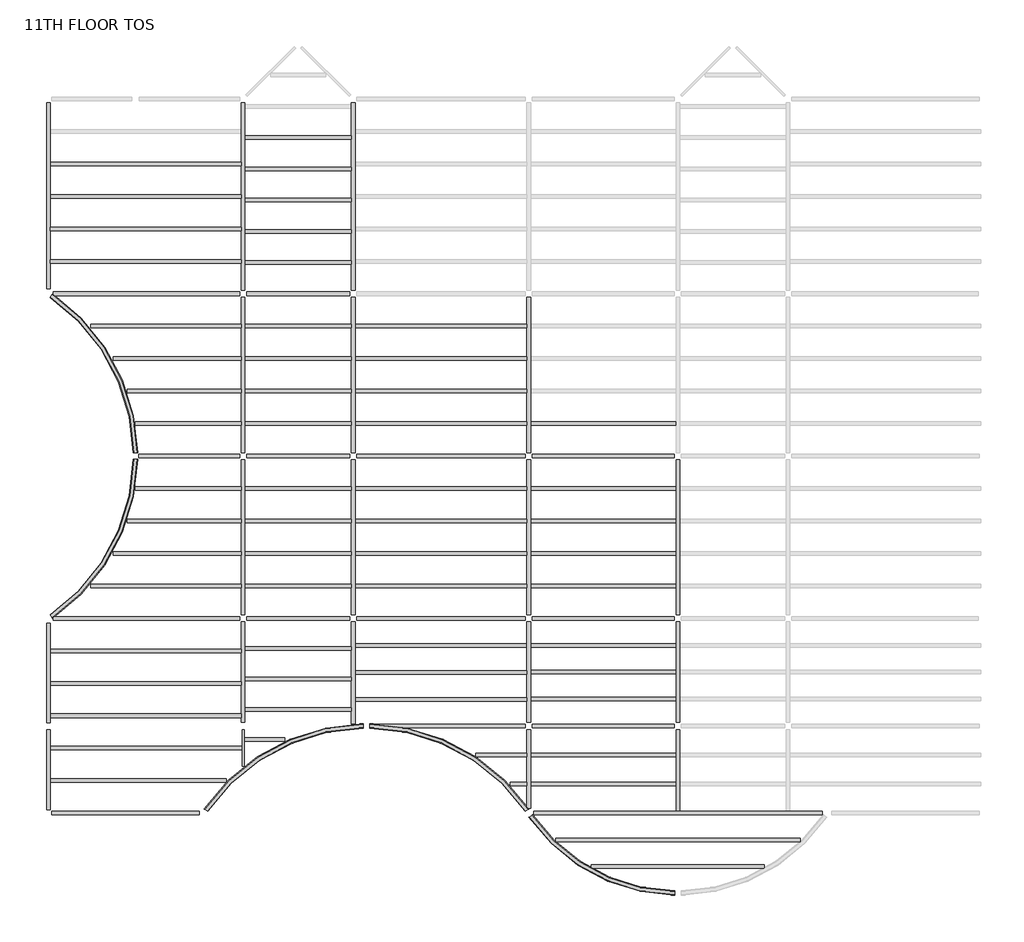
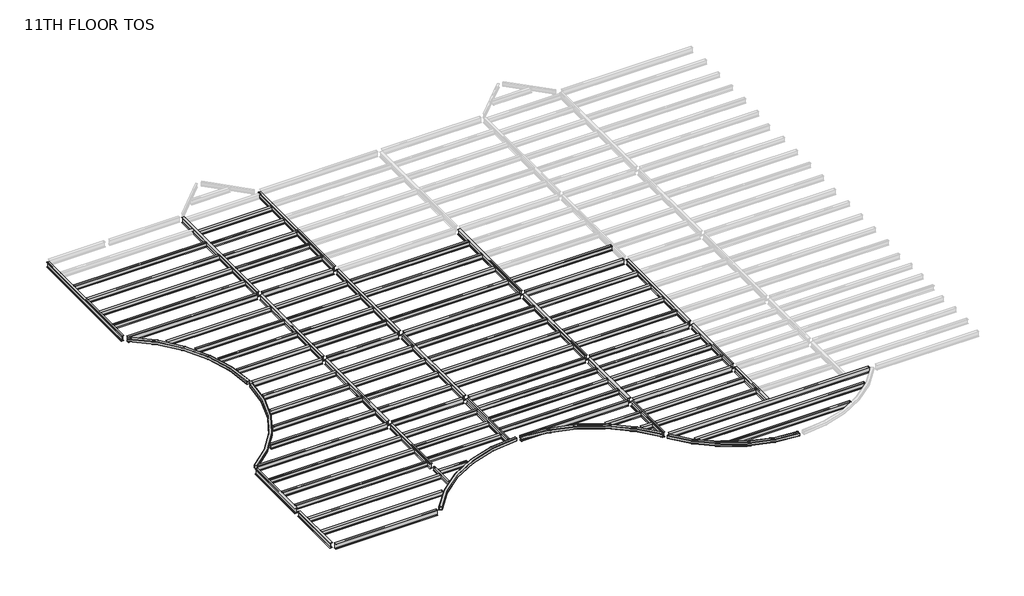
# One storey, part 1 of 2: 97 beams.
"""IFC4 building model written with IfcOpenShell, lengths in millimetres."""

from ifc_helpers import new_model, si_unit, origin, place, context, project, spatial, transform, mapped, element, save
from components import m_hss_square_hss203_2x203_2x9_5_914ff4eb, m_hss_square_hss203_2x203_2x9_5_0e3d8e6e, m_hss_square_hss203_2x203_2x9_5_16dc1c03, m_hss_square_hss203_2x203_2x9_5_18346204, m_hss_square_hss203_2x203_2x9_5_d5f1e8c4, ub_universal_beams_ub254x102x28_4e7f3726, ub_universal_beams_ub305x165x40_c4d0385b, ub_universal_beams_ub305x165x40_d3abc31d, ub_universal_beams_ub305x165x40_0c73730f, ub_universal_beams_ub305x165x40_2a963f0c, ub_universal_beams_ub305x165x40_0a5f2f96, ub_universal_beams_ub305x165x40_d1f7c369, ub_universal_beams_ub305x165x40_83d7b7d5, ub_universal_beams_ub305x165x40_729a4ea5, ub_universal_beams_ub305x165x40_71dfa851, ub_universal_beams_ub305x165x40_619b5398, ub_universal_beams_ub305x165x40_c3492db1, ub_universal_beams_ub305x165x40_8f1c350d, ub_universal_beams_ub305x165x40_3afb5f90, ub_universal_beams_ub305x165x40_767d1929, ub_universal_beams_ub305x165x40_5941ca45, ub_universal_beams_ub356x171x51_ef72dcdd, ub_universal_beams_ub356x171x51_7f80702c, ub_universal_beams_ub356x171x51_dfc36663, ub_universal_beams_ub356x171x51_405a853e, ub_universal_beams_ub356x171x51_e47b7055, ub_universal_beams_ub356x171x51_e97f8d2e, ub_universal_beams_ub356x171x51_11d6b780, ub_universal_beams_ub356x171x51_76b2d20b, ub_universal_beams_ub356x171x51_145ecd4b, ub_universal_beams_ub356x171x51_c7dff8d2, ub_universal_beams_ub356x171x51_834c6e34, ub_universal_beams_ub356x171x51_a38b99de, ub_universal_beams_ub356x171x51_d8f4cdde, ub_universal_beams_ub356x171x51_8094f821, ub_universal_beams_ub356x171x51_c03c70fb, ub_universal_beams_ub356x171x51_e661f2e4, ub_universal_beams_ub356x171x51_3ee91673, ub_universal_beams_ub356x171x51_a871b283, ub_universal_beams_ub356x171x51_741bae58

model = new_model("IFC4")

# Units and contexts
model_context = context("Model", 3, world=origin())
ifc_project = project(units=[si_unit("LENGTHUNIT", "METRE", prefix="MILLI")], contexts=[model_context])

# Site, building, storey
site = spatial("IfcSite", under=ifc_project)
building = spatial("IfcBuilding", under=site)
storey = spatial("IfcBuildingStorey", under=building, Name="11TH FLOOR TOS", Elevation=50139.6)

# Beams
placement = place(None, origin())
m_hss_square_hss203_2x203_2x9_5_shape = m_hss_square_hss203_2x203_2x9_5_914ff4eb(model_context)
element("IfcBeam", 1, ObjectType="M_HSS Square : HSS203.2X203.2X9.5", at=placement, inside=storey, context=model_context, shape_type="MappedRepresentation", body=[
    mapped(m_hss_square_hss203_2x203_2x9_5_shape, transform((22710.575, 155.575, 50038.1), x_axis=(-0.552849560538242, 0.8332810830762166, 0.0), y_axis=(-0.8332810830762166, -0.552849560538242, 0.0), z_axis=(0.0, 0.0, 1.0))),
])
m_hss_square_hss203_2x203_2x9_5_2_shape = m_hss_square_hss203_2x203_2x9_5_0e3d8e6e(model_context)
element("IfcBeam", 2, ObjectType="M_HSS Square : HSS203.2X203.2X9.5", at=placement, inside=storey, context=model_context, shape_type="MappedRepresentation", body=[
    mapped(m_hss_square_hss203_2x203_2x9_5_2_shape, transform((155.575, 9299.575, 50038.1), x_axis=(0.8332810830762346, 0.5528495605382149, 0.0), y_axis=(-0.5528495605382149, 0.8332810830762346, 0.0), z_axis=(0.0, 0.0, 1.0))),
])
m_hss_square_hss203_2x203_2x9_5_3_shape = m_hss_square_hss203_2x203_2x9_5_16dc1c03(model_context)
element("IfcBeam", 3, ObjectType="M_HSS Square : HSS203.2X203.2X9.5", at=placement, inside=storey, context=model_context, shape_type="MappedRepresentation", body=[
    mapped(m_hss_square_hss203_2x203_2x9_5_3_shape, transform((155.575, 24539.575, 50038.1), x_axis=(0.8332810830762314, -0.5528495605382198, 0.0), y_axis=(0.5528495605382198, 0.8332810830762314, 0.0), z_axis=(0.0, 0.0, 1.0))),
])
m_hss_square_hss203_2x203_2x9_5_4_shape = m_hss_square_hss203_2x203_2x9_5_18346204(model_context)
element("IfcBeam", 4, ObjectType="M_HSS Square : HSS203.2X203.2X9.5", at=placement, inside=storey, context=model_context, shape_type="MappedRepresentation", body=[
    mapped(m_hss_square_hss203_2x203_2x9_5_4_shape, transform((29734.7266693, -3601.398624, 50038.1), x_axis=(-0.9999968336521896, -0.0025164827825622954, 0.0), y_axis=(0.0025164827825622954, -0.9999968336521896, 0.0), z_axis=(0.0, 0.0, 1.0))),
])
m_hss_square_hss203_2x203_2x9_5_5_shape = m_hss_square_hss203_2x203_2x9_5_d5f1e8c4(model_context)
element("IfcBeam", 5, ObjectType="M_HSS Square : HSS203.2X203.2X9.5", at=placement, inside=storey, context=model_context, shape_type="MappedRepresentation", body=[
    mapped(m_hss_square_hss203_2x203_2x9_5_5_shape, transform((15096.4572854, 4244.5731081, 50038.1), x_axis=(-0.9999997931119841, 0.0006432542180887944, 0.0), y_axis=(-0.0006432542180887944, -0.9999997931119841, 0.0), z_axis=(0.0, 0.0, 1.0))),
])
ub_universal_beams_ub254x102x28_shape = ub_universal_beams_ub254x102x28_4e7f3726(model_context)
element("IfcBeam", 6, ObjectType="UB-Universal Beams : UB254x102x28", at=placement, inside=storey, context=model_context, shape_type="MappedRepresentation", body=[
    mapped(ub_universal_beams_ub254x102x28_shape, transform((9299.575, 3210.915913, 50009.4), x_axis=(0.0, -1.0, 0.0), y_axis=(1.0, 0.0, 0.0), z_axis=(0.0, 0.0, 1.0))),
])
ub_universal_beams_ub305x165x40_shape = ub_universal_beams_ub305x165x40_c4d0385b(model_context)
element("IfcBeam", 7, ObjectType="UB-Universal Beams : UB305x165x40", at=placement, inside=storey, context=model_context, shape_type="MappedRepresentation", body=[
    mapped(ub_universal_beams_ub305x165x40_shape, transform((4727.575, 30635.575, 49987.9), x_axis=(1.0, 0.0, 0.0), y_axis=(0.0, 1.0, 0.0), z_axis=(0.0, 0.0, 1.0))),
])
element("IfcBeam", 8, ObjectType="UB-Universal Beams : UB305x165x40", at=placement, inside=storey, context=model_context, shape_type="MappedRepresentation", body=[
    mapped(ub_universal_beams_ub305x165x40_shape, transform((4727.575, 29111.575, 49987.9), x_axis=(1.0, 0.0, 0.0), y_axis=(0.0, 1.0, 0.0), z_axis=(0.0, 0.0, 1.0))),
])
element("IfcBeam", 9, ObjectType="UB-Universal Beams : UB305x165x40", at=placement, inside=storey, context=model_context, shape_type="MappedRepresentation", body=[
    mapped(ub_universal_beams_ub305x165x40_shape, transform((4727.575, 27587.575, 49987.9), x_axis=(1.0, 0.0, 0.0), y_axis=(0.0, 1.0, 0.0), z_axis=(0.0, 0.0, 1.0))),
])
element("IfcBeam", 10, ObjectType="UB-Universal Beams : UB305x165x40", at=placement, inside=storey, context=model_context, shape_type="MappedRepresentation", body=[
    mapped(ub_universal_beams_ub305x165x40_shape, transform((4727.575, 26063.575, 49987.9), x_axis=(1.0, 0.0, 0.0), y_axis=(0.0, 1.0, 0.0), z_axis=(0.0, 0.0, 1.0))),
])
element("IfcBeam", 11, ObjectType="UB-Universal Beams : UB305x165x40", at=placement, inside=storey, context=model_context, shape_type="MappedRepresentation", body=[
    mapped(ub_universal_beams_ub305x165x40_shape, transform((4727.575, 4727.575, 49987.9), x_axis=(-1.0, 0.0, 0.0), y_axis=(0.0, -1.0, 0.0), z_axis=(0.0, 0.0, 1.0))),
])
element("IfcBeam", 12, ObjectType="UB-Universal Beams : UB305x165x40", at=placement, inside=storey, context=model_context, shape_type="MappedRepresentation", body=[
    mapped(ub_universal_beams_ub305x165x40_shape, transform((4727.575, 6251.575, 49987.9), x_axis=(-1.0, 0.0, 0.0), y_axis=(0.0, -1.0, 0.0), z_axis=(0.0, 0.0, 1.0))),
])
element("IfcBeam", 13, ObjectType="UB-Universal Beams : UB305x165x40", at=placement, inside=storey, context=model_context, shape_type="MappedRepresentation", body=[
    mapped(ub_universal_beams_ub305x165x40_shape, transform((4727.575, 7775.575, 49987.9), x_axis=(-1.0, 0.0, 0.0), y_axis=(0.0, -1.0, 0.0), z_axis=(0.0, 0.0, 1.0))),
])
ub_universal_beams_ub305x165x40_2_shape = ub_universal_beams_ub305x165x40_d3abc31d(model_context)
element("IfcBeam", 14, ObjectType="UB-Universal Beams : UB305x165x40", at=placement, inside=storey, context=model_context, shape_type="MappedRepresentation", body=[
    mapped(ub_universal_beams_ub305x165x40_2_shape, transform((11885.575, 31870.825, 49987.9), x_axis=(1.0, 0.0, 0.0), y_axis=(0.0, 1.0, 0.0), z_axis=(0.0, 0.0, 1.0))),
])
element("IfcBeam", 15, ObjectType="UB-Universal Beams : UB305x165x40", at=placement, inside=storey, context=model_context, shape_type="MappedRepresentation", body=[
    mapped(ub_universal_beams_ub305x165x40_2_shape, transform((11885.575, 30404.575, 49987.9), x_axis=(1.0, 0.0, 0.0), y_axis=(0.0, 1.0, 0.0), z_axis=(0.0, 0.0, 1.0))),
])
element("IfcBeam", 16, ObjectType="UB-Universal Beams : UB305x165x40", at=placement, inside=storey, context=model_context, shape_type="MappedRepresentation", body=[
    mapped(ub_universal_beams_ub305x165x40_2_shape, transform((11885.575, 28938.325, 49987.9), x_axis=(1.0, 0.0, 0.0), y_axis=(0.0, 1.0, 0.0), z_axis=(0.0, 0.0, 1.0))),
])
element("IfcBeam", 17, ObjectType="UB-Universal Beams : UB305x165x40", at=placement, inside=storey, context=model_context, shape_type="MappedRepresentation", body=[
    mapped(ub_universal_beams_ub305x165x40_2_shape, transform((11885.575, 27472.075, 49987.9), x_axis=(1.0, 0.0, 0.0), y_axis=(0.0, 1.0, 0.0), z_axis=(0.0, 0.0, 1.0))),
])
element("IfcBeam", 18, ObjectType="UB-Universal Beams : UB305x165x40", at=placement, inside=storey, context=model_context, shape_type="MappedRepresentation", body=[
    mapped(ub_universal_beams_ub305x165x40_2_shape, transform((11885.575, 26005.825, 49987.9), x_axis=(1.0, 0.0, 0.0), y_axis=(0.0, 1.0, 0.0), z_axis=(0.0, 0.0, 1.0))),
])
element("IfcBeam", 19, ObjectType="UB-Universal Beams : UB305x165x40", at=placement, inside=storey, context=model_context, shape_type="MappedRepresentation", body=[
    mapped(ub_universal_beams_ub305x165x40_2_shape, transform((11885.575, 23015.575, 49987.9), x_axis=(1.0, 0.0, 0.0), y_axis=(0.0, 1.0, 0.0), z_axis=(0.0, 0.0, 1.0))),
])
element("IfcBeam", 20, ObjectType="UB-Universal Beams : UB305x165x40", at=placement, inside=storey, context=model_context, shape_type="MappedRepresentation", body=[
    mapped(ub_universal_beams_ub305x165x40_2_shape, transform((11885.575, 21491.575, 49987.9), x_axis=(1.0, 0.0, 0.0), y_axis=(0.0, 1.0, 0.0), z_axis=(0.0, 0.0, 1.0))),
])
element("IfcBeam", 21, ObjectType="UB-Universal Beams : UB305x165x40", at=placement, inside=storey, context=model_context, shape_type="MappedRepresentation", body=[
    mapped(ub_universal_beams_ub305x165x40_2_shape, transform((11885.575, 19967.575, 49987.9), x_axis=(1.0, 0.0, 0.0), y_axis=(0.0, 1.0, 0.0), z_axis=(0.0, 0.0, 1.0))),
])
element("IfcBeam", 22, ObjectType="UB-Universal Beams : UB305x165x40", at=placement, inside=storey, context=model_context, shape_type="MappedRepresentation", body=[
    mapped(ub_universal_beams_ub305x165x40_2_shape, transform((11885.575, 18443.575, 49987.9), x_axis=(1.0, 0.0, 0.0), y_axis=(0.0, 1.0, 0.0), z_axis=(0.0, 0.0, 1.0))),
])
element("IfcBeam", 23, ObjectType="UB-Universal Beams : UB305x165x40", at=placement, inside=storey, context=model_context, shape_type="MappedRepresentation", body=[
    mapped(ub_universal_beams_ub305x165x40_2_shape, transform((11885.575, 15395.575, 49987.9), x_axis=(1.0, 0.0, 0.0), y_axis=(0.0, 1.0, 0.0), z_axis=(0.0, 0.0, 1.0))),
])
element("IfcBeam", 24, ObjectType="UB-Universal Beams : UB305x165x40", at=placement, inside=storey, context=model_context, shape_type="MappedRepresentation", body=[
    mapped(ub_universal_beams_ub305x165x40_2_shape, transform((11885.575, 13871.575, 49987.9), x_axis=(1.0, 0.0, 0.0), y_axis=(0.0, 1.0, 0.0), z_axis=(0.0, 0.0, 1.0))),
])
element("IfcBeam", 25, ObjectType="UB-Universal Beams : UB305x165x40", at=placement, inside=storey, context=model_context, shape_type="MappedRepresentation", body=[
    mapped(ub_universal_beams_ub305x165x40_2_shape, transform((11885.575, 12347.575, 49987.9), x_axis=(1.0, 0.0, 0.0), y_axis=(0.0, 1.0, 0.0), z_axis=(0.0, 0.0, 1.0))),
])
element("IfcBeam", 26, ObjectType="UB-Universal Beams : UB305x165x40", at=placement, inside=storey, context=model_context, shape_type="MappedRepresentation", body=[
    mapped(ub_universal_beams_ub305x165x40_2_shape, transform((11885.575, 10823.575, 49987.9), x_axis=(1.0, 0.0, 0.0), y_axis=(0.0, 1.0, 0.0), z_axis=(0.0, 0.0, 1.0))),
])
element("IfcBeam", 27, ObjectType="UB-Universal Beams : UB305x165x40", at=placement, inside=storey, context=model_context, shape_type="MappedRepresentation", body=[
    mapped(ub_universal_beams_ub305x165x40_2_shape, transform((11885.575, 5026.1840956, 49987.9), x_axis=(-1.0, 0.0, 0.0), y_axis=(0.0, -1.0, 0.0), z_axis=(0.0, 0.0, 1.0))),
])
element("IfcBeam", 28, ObjectType="UB-Universal Beams : UB305x165x40", at=placement, inside=storey, context=model_context, shape_type="MappedRepresentation", body=[
    mapped(ub_universal_beams_ub305x165x40_2_shape, transform((11885.575, 6450.6477304, 49987.9), x_axis=(-1.0, 0.0, 0.0), y_axis=(0.0, -1.0, 0.0), z_axis=(0.0, 0.0, 1.0))),
])
element("IfcBeam", 29, ObjectType="UB-Universal Beams : UB305x165x40", at=placement, inside=storey, context=model_context, shape_type="MappedRepresentation", body=[
    mapped(ub_universal_beams_ub305x165x40_2_shape, transform((11885.575, 7875.1113652, 49987.9), x_axis=(-1.0, 0.0, 0.0), y_axis=(0.0, -1.0, 0.0), z_axis=(0.0, 0.0, 1.0))),
])
ub_universal_beams_ub305x165x40_3_shape = ub_universal_beams_ub305x165x40_0c73730f(model_context)
element("IfcBeam", 30, ObjectType="UB-Universal Beams : UB305x165x40", at=placement, inside=storey, context=model_context, shape_type="MappedRepresentation", body=[
    mapped(ub_universal_beams_ub305x165x40_3_shape, transform((18591.075, 5492.5943214, 49987.9), x_axis=(-1.0, 0.0, 0.0), y_axis=(0.0, -1.0, 0.0), z_axis=(0.0, 0.0, 1.0))),
])
element("IfcBeam", 31, ObjectType="UB-Universal Beams : UB305x165x40", at=placement, inside=storey, context=model_context, shape_type="MappedRepresentation", body=[
    mapped(ub_universal_beams_ub305x165x40_3_shape, transform((18591.075, 6761.5878809, 49987.9), x_axis=(-1.0, 0.0, 0.0), y_axis=(0.0, -1.0, 0.0), z_axis=(0.0, 0.0, 1.0))),
])
element("IfcBeam", 32, ObjectType="UB-Universal Beams : UB305x165x40", at=placement, inside=storey, context=model_context, shape_type="MappedRepresentation", body=[
    mapped(ub_universal_beams_ub305x165x40_3_shape, transform((18591.075, 8030.5814405, 49987.9), x_axis=(-1.0, 0.0, 0.0), y_axis=(0.0, -1.0, 0.0), z_axis=(0.0, 0.0, 1.0))),
])
element("IfcBeam", 33, ObjectType="UB-Universal Beams : UB305x165x40", at=placement, inside=storey, context=model_context, shape_type="MappedRepresentation", body=[
    mapped(ub_universal_beams_ub305x165x40_3_shape, transform((18591.075, 15395.575, 49987.9), x_axis=(1.0, 0.0, 0.0), y_axis=(0.0, 1.0, 0.0), z_axis=(0.0, 0.0, 1.0))),
])
element("IfcBeam", 34, ObjectType="UB-Universal Beams : UB305x165x40", at=placement, inside=storey, context=model_context, shape_type="MappedRepresentation", body=[
    mapped(ub_universal_beams_ub305x165x40_3_shape, transform((18591.075, 13871.575, 49987.9), x_axis=(1.0, 0.0, 0.0), y_axis=(0.0, 1.0, 0.0), z_axis=(0.0, 0.0, 1.0))),
])
element("IfcBeam", 35, ObjectType="UB-Universal Beams : UB305x165x40", at=placement, inside=storey, context=model_context, shape_type="MappedRepresentation", body=[
    mapped(ub_universal_beams_ub305x165x40_3_shape, transform((18591.075, 12347.575, 49987.9), x_axis=(1.0, 0.0, 0.0), y_axis=(0.0, 1.0, 0.0), z_axis=(0.0, 0.0, 1.0))),
])
element("IfcBeam", 36, ObjectType="UB-Universal Beams : UB305x165x40", at=placement, inside=storey, context=model_context, shape_type="MappedRepresentation", body=[
    mapped(ub_universal_beams_ub305x165x40_3_shape, transform((18591.075, 10823.575, 49987.9), x_axis=(1.0, 0.0, 0.0), y_axis=(0.0, 1.0, 0.0), z_axis=(0.0, 0.0, 1.0))),
])
element("IfcBeam", 37, ObjectType="UB-Universal Beams : UB305x165x40", at=placement, inside=storey, context=model_context, shape_type="MappedRepresentation", body=[
    mapped(ub_universal_beams_ub305x165x40_3_shape, transform((18591.075, 23015.575, 49987.9), x_axis=(1.0, 0.0, 0.0), y_axis=(0.0, 1.0, 0.0), z_axis=(0.0, 0.0, 1.0))),
])
element("IfcBeam", 38, ObjectType="UB-Universal Beams : UB305x165x40", at=placement, inside=storey, context=model_context, shape_type="MappedRepresentation", body=[
    mapped(ub_universal_beams_ub305x165x40_3_shape, transform((18591.075, 21491.575, 49987.9), x_axis=(1.0, 0.0, 0.0), y_axis=(0.0, 1.0, 0.0), z_axis=(0.0, 0.0, 1.0))),
])
element("IfcBeam", 39, ObjectType="UB-Universal Beams : UB305x165x40", at=placement, inside=storey, context=model_context, shape_type="MappedRepresentation", body=[
    mapped(ub_universal_beams_ub305x165x40_3_shape, transform((18591.075, 19967.575, 49987.9), x_axis=(1.0, 0.0, 0.0), y_axis=(0.0, 1.0, 0.0), z_axis=(0.0, 0.0, 1.0))),
])
element("IfcBeam", 40, ObjectType="UB-Universal Beams : UB305x165x40", at=placement, inside=storey, context=model_context, shape_type="MappedRepresentation", body=[
    mapped(ub_universal_beams_ub305x165x40_3_shape, transform((18591.075, 18443.575, 49987.9), x_axis=(1.0, 0.0, 0.0), y_axis=(0.0, 1.0, 0.0), z_axis=(0.0, 0.0, 1.0))),
])
ub_universal_beams_ub305x165x40_4_shape = ub_universal_beams_ub305x165x40_2a963f0c(model_context)
element("IfcBeam", 41, ObjectType="UB-Universal Beams : UB305x165x40", at=placement, inside=storey, context=model_context, shape_type="MappedRepresentation", body=[
    mapped(ub_universal_beams_ub305x165x40_4_shape, transform((26211.075, 18443.575, 49987.9), x_axis=(1.0, 0.0, 0.0), y_axis=(0.0, 1.0, 0.0), z_axis=(0.0, 0.0, 1.0))),
])
element("IfcBeam", 42, ObjectType="UB-Universal Beams : UB305x165x40", at=placement, inside=storey, context=model_context, shape_type="MappedRepresentation", body=[
    mapped(ub_universal_beams_ub305x165x40_4_shape, transform((26211.075, 15395.575, 49987.9), x_axis=(1.0, 0.0, 0.0), y_axis=(0.0, 1.0, 0.0), z_axis=(0.0, 0.0, 1.0))),
])
element("IfcBeam", 43, ObjectType="UB-Universal Beams : UB305x165x40", at=placement, inside=storey, context=model_context, shape_type="MappedRepresentation", body=[
    mapped(ub_universal_beams_ub305x165x40_4_shape, transform((26211.075, 13871.575, 49987.9), x_axis=(1.0, 0.0, 0.0), y_axis=(0.0, 1.0, 0.0), z_axis=(0.0, 0.0, 1.0))),
])
element("IfcBeam", 44, ObjectType="UB-Universal Beams : UB305x165x40", at=placement, inside=storey, context=model_context, shape_type="MappedRepresentation", body=[
    mapped(ub_universal_beams_ub305x165x40_4_shape, transform((26211.075, 12347.575, 49987.9), x_axis=(1.0, 0.0, 0.0), y_axis=(0.0, 1.0, 0.0), z_axis=(0.0, 0.0, 1.0))),
])
element("IfcBeam", 45, ObjectType="UB-Universal Beams : UB305x165x40", at=placement, inside=storey, context=model_context, shape_type="MappedRepresentation", body=[
    mapped(ub_universal_beams_ub305x165x40_4_shape, transform((26211.075, 10823.575, 49987.9), x_axis=(1.0, 0.0, 0.0), y_axis=(0.0, 1.0, 0.0), z_axis=(0.0, 0.0, 1.0))),
])
element("IfcBeam", 46, ObjectType="UB-Universal Beams : UB305x165x40", at=placement, inside=storey, context=model_context, shape_type="MappedRepresentation", body=[
    mapped(ub_universal_beams_ub305x165x40_4_shape, transform((26211.075, 5508.325, 49987.9), x_axis=(-1.0, 0.0, 0.0), y_axis=(0.0, -1.0, 0.0), z_axis=(0.0, 0.0, 1.0))),
])
element("IfcBeam", 47, ObjectType="UB-Universal Beams : UB305x165x40", at=placement, inside=storey, context=model_context, shape_type="MappedRepresentation", body=[
    mapped(ub_universal_beams_ub305x165x40_4_shape, transform((26211.075, 6772.075, 49987.9), x_axis=(-1.0, 0.0, 0.0), y_axis=(0.0, -1.0, 0.0), z_axis=(0.0, 0.0, 1.0))),
])
element("IfcBeam", 48, ObjectType="UB-Universal Beams : UB305x165x40", at=placement, inside=storey, context=model_context, shape_type="MappedRepresentation", body=[
    mapped(ub_universal_beams_ub305x165x40_4_shape, transform((26211.075, 8035.825, 49987.9), x_axis=(-1.0, 0.0, 0.0), y_axis=(0.0, -1.0, 0.0), z_axis=(0.0, 0.0, 1.0))),
])
element("IfcBeam", 49, ObjectType="UB-Universal Beams : UB305x165x40", at=placement, inside=storey, context=model_context, shape_type="MappedRepresentation", body=[
    mapped(ub_universal_beams_ub305x165x40_4_shape, transform((26211.075, 1518.575, 49987.9), x_axis=(-1.0, 0.0, 0.0), y_axis=(0.0, -1.0, 0.0), z_axis=(0.0, 0.0, 1.0))),
])
element("IfcBeam", 50, ObjectType="UB-Universal Beams : UB305x165x40", at=placement, inside=storey, context=model_context, shape_type="MappedRepresentation", body=[
    mapped(ub_universal_beams_ub305x165x40_4_shape, transform((26211.075, 2881.575, 49987.9), x_axis=(-1.0, 0.0, 0.0), y_axis=(0.0, -1.0, 0.0), z_axis=(0.0, 0.0, 1.0))),
])
ub_universal_beams_ub305x165x40_5_shape = ub_universal_beams_ub305x165x40_0a5f2f96(model_context)
element("IfcBeam", 51, ObjectType="UB-Universal Beams : UB305x165x40", at=placement, inside=storey, context=model_context, shape_type="MappedRepresentation", body=[
    mapped(ub_universal_beams_ub305x165x40_5_shape, transform((29713.575, -2349.0918253, 49987.9), x_axis=(-1.0, 0.0, 0.0), y_axis=(0.0, -1.0, 0.0), z_axis=(0.0, 0.0, 1.0))),
])
ub_universal_beams_ub305x165x40_6_shape = ub_universal_beams_ub305x165x40_d1f7c369(model_context)
element("IfcBeam", 52, ObjectType="UB-Universal Beams : UB305x165x40", at=placement, inside=storey, context=model_context, shape_type="MappedRepresentation", body=[
    mapped(ub_universal_beams_ub305x165x40_6_shape, transform((29713.575, -1096.7584126, 49987.9), x_axis=(-1.0, 0.0, 0.0), y_axis=(0.0, -1.0, 0.0), z_axis=(0.0, 0.0, 1.0))),
])
ub_universal_beams_ub305x165x40_7_shape = ub_universal_beams_ub305x165x40_83d7b7d5(model_context)
element("IfcBeam", 53, ObjectType="UB-Universal Beams : UB305x165x40", at=placement, inside=storey, context=model_context, shape_type="MappedRepresentation", body=[
    mapped(ub_universal_beams_ub305x165x40_7_shape, transform((22157.3041106, 1518.575, 49987.9), x_axis=(-1.0, 0.0, 0.0), y_axis=(0.0, -1.0, 0.0), z_axis=(0.0, 0.0, 1.0))),
])
ub_universal_beams_ub305x165x40_8_shape = ub_universal_beams_ub305x165x40_729a4ea5(model_context)
element("IfcBeam", 54, ObjectType="UB-Universal Beams : UB305x165x40", at=placement, inside=storey, context=model_context, shape_type="MappedRepresentation", body=[
    mapped(ub_universal_beams_ub305x165x40_8_shape, transform((21302.1545844, 2881.575, 49987.9), x_axis=(-1.0, 0.0, 0.0), y_axis=(0.0, -1.0, 0.0), z_axis=(0.0, 0.0, 1.0))),
])
ub_universal_beams_ub305x165x40_9_shape = ub_universal_beams_ub305x165x40_71dfa851(model_context)
element("IfcBeam", 55, ObjectType="UB-Universal Beams : UB305x165x40", at=placement, inside=storey, context=model_context, shape_type="MappedRepresentation", body=[
    mapped(ub_universal_beams_ub305x165x40_9_shape, transform((10511.0323166, 3601.7204608, 49987.9), x_axis=(-1.0, 0.0, 0.0), y_axis=(0.0, -1.0, 0.0), z_axis=(0.0, 0.0, 1.0))),
])
ub_universal_beams_ub305x165x40_10_shape = ub_universal_beams_ub305x165x40_619b5398(model_context)
element("IfcBeam", 56, ObjectType="UB-Universal Beams : UB305x165x40", at=placement, inside=storey, context=model_context, shape_type="MappedRepresentation", body=[
    mapped(ub_universal_beams_ub305x165x40_10_shape, transform((4447.6838282, 1679.575, 49987.9), x_axis=(-1.0, 0.0, 0.0), y_axis=(0.0, -1.0, 0.0), z_axis=(0.0, 0.0, 1.0))),
])
ub_universal_beams_ub305x165x40_11_shape = ub_universal_beams_ub305x165x40_c3492db1(model_context)
element("IfcBeam", 57, ObjectType="UB-Universal Beams : UB305x165x40", at=placement, inside=storey, context=model_context, shape_type="MappedRepresentation", body=[
    mapped(ub_universal_beams_ub305x165x40_11_shape, transform((4727.575, 3203.575, 49987.9), x_axis=(-1.0, 0.0, 0.0), y_axis=(0.0, -1.0, 0.0), z_axis=(0.0, 0.0, 1.0))),
])
ub_universal_beams_ub305x165x40_12_shape = ub_universal_beams_ub305x165x40_8f1c350d(model_context)
element("IfcBeam", 58, ObjectType="UB-Universal Beams : UB305x165x40", at=placement, inside=storey, context=model_context, shape_type="MappedRepresentation", body=[
    mapped(ub_universal_beams_ub305x165x40_12_shape, transform((6708.1318611, 15395.575, 49987.9), x_axis=(1.0, 0.0, 0.0), y_axis=(0.0, 1.0, 0.0), z_axis=(0.0, 0.0, 1.0))),
])
element("IfcBeam", 59, ObjectType="UB-Universal Beams : UB305x165x40", at=placement, inside=storey, context=model_context, shape_type="MappedRepresentation", body=[
    mapped(ub_universal_beams_ub305x165x40_12_shape, transform((6708.1318611, 18443.575, 49987.9), x_axis=(1.0, 0.0, 0.0), y_axis=(0.0, 1.0, 0.0), z_axis=(0.0, 0.0, 1.0))),
])
ub_universal_beams_ub305x165x40_13_shape = ub_universal_beams_ub305x165x40_3afb5f90(model_context)
element("IfcBeam", 60, ObjectType="UB-Universal Beams : UB305x165x40", at=placement, inside=storey, context=model_context, shape_type="MappedRepresentation", body=[
    mapped(ub_universal_beams_ub305x165x40_13_shape, transform((6510.6153272, 13871.575, 49987.9), x_axis=(1.0, 0.0, 0.0), y_axis=(0.0, 1.0, 0.0), z_axis=(0.0, 0.0, 1.0))),
])
element("IfcBeam", 61, ObjectType="UB-Universal Beams : UB305x165x40", at=placement, inside=storey, context=model_context, shape_type="MappedRepresentation", body=[
    mapped(ub_universal_beams_ub305x165x40_13_shape, transform((6510.6153272, 19967.575, 49987.9), x_axis=(1.0, 0.0, 0.0), y_axis=(0.0, 1.0, 0.0), z_axis=(0.0, 0.0, 1.0))),
])
ub_universal_beams_ub305x165x40_14_shape = ub_universal_beams_ub305x165x40_767d1929(model_context)
element("IfcBeam", 62, ObjectType="UB-Universal Beams : UB305x165x40", at=placement, inside=storey, context=model_context, shape_type="MappedRepresentation", body=[
    mapped(ub_universal_beams_ub305x165x40_14_shape, transform((6159.5874928, 12347.575, 49987.9), x_axis=(1.0, 0.0, 0.0), y_axis=(0.0, 1.0, 0.0), z_axis=(0.0, 0.0, 1.0))),
])
element("IfcBeam", 63, ObjectType="UB-Universal Beams : UB305x165x40", at=placement, inside=storey, context=model_context, shape_type="MappedRepresentation", body=[
    mapped(ub_universal_beams_ub305x165x40_14_shape, transform((6159.5874928, 21491.575, 49987.9), x_axis=(1.0, 0.0, 0.0), y_axis=(0.0, 1.0, 0.0), z_axis=(0.0, 0.0, 1.0))),
])
ub_universal_beams_ub305x165x40_15_shape = ub_universal_beams_ub305x165x40_5941ca45(model_context)
element("IfcBeam", 64, ObjectType="UB-Universal Beams : UB305x165x40", at=placement, inside=storey, context=model_context, shape_type="MappedRepresentation", body=[
    mapped(ub_universal_beams_ub305x165x40_15_shape, transform((5607.9405309, 10823.575, 49987.9), x_axis=(1.0, 0.0, 0.0), y_axis=(0.0, 1.0, 0.0), z_axis=(0.0, 0.0, 1.0))),
])
element("IfcBeam", 65, ObjectType="UB-Universal Beams : UB305x165x40", at=placement, inside=storey, context=model_context, shape_type="MappedRepresentation", body=[
    mapped(ub_universal_beams_ub305x165x40_15_shape, transform((5607.9405309, 23015.575, 49987.9), x_axis=(1.0, 0.0, 0.0), y_axis=(0.0, 1.0, 0.0), z_axis=(0.0, 0.0, 1.0))),
])
ub_universal_beams_ub356x171x51_shape = ub_universal_beams_ub356x171x51_ef72dcdd(model_context)
element("IfcBeam", 66, ObjectType="UB-Universal Beams : UB356x171x51", at=placement, inside=storey, context=model_context, shape_type="MappedRepresentation", body=[
    mapped(ub_universal_beams_ub356x171x51_shape, transform((9299.575, 6772.075, 49962.1), x_axis=(0.0, -1.0, 0.0), y_axis=(1.0, 0.0, 0.0), z_axis=(0.0, 0.0, 1.0))),
])
element("IfcBeam", 67, ObjectType="UB-Universal Beams : UB356x171x51", at=placement, inside=storey, context=model_context, shape_type="MappedRepresentation", body=[
    mapped(ub_universal_beams_ub356x171x51_shape, transform((29711.575, 6772.075, 49962.1), x_axis=(0.0, 1.0, 0.0), y_axis=(-1.0, 0.0, 0.0), z_axis=(0.0, 0.0, 1.0))),
])
element("IfcBeam", 68, ObjectType="UB-Universal Beams : UB356x171x51", at=placement, inside=storey, context=model_context, shape_type="MappedRepresentation", body=[
    mapped(ub_universal_beams_ub356x171x51_shape, transform((22710.575, 6772.075, 49962.1), x_axis=(0.0, -1.0, 0.0), y_axis=(1.0, 0.0, 0.0), z_axis=(0.0, 0.0, 1.0))),
])
ub_universal_beams_ub356x171x51_2_shape = ub_universal_beams_ub356x171x51_7f80702c(model_context)
element("IfcBeam", 69, ObjectType="UB-Universal Beams : UB356x171x51", at=placement, inside=storey, context=model_context, shape_type="MappedRepresentation", body=[
    mapped(ub_universal_beams_ub356x171x51_2_shape, transform((3813.075, 155.575, 49962.1), x_axis=(-1.0, 0.0, 0.0), y_axis=(0.0, -1.0, 0.0), z_axis=(0.0, 0.0, 1.0))),
])
ub_universal_beams_ub356x171x51_3_shape = ub_universal_beams_ub356x171x51_dfc36663(model_context)
element("IfcBeam", 70, ObjectType="UB-Universal Beams : UB356x171x51", at=placement, inside=storey, context=model_context, shape_type="MappedRepresentation", body=[
    mapped(ub_universal_beams_ub356x171x51_3_shape, transform((155.575, 2200.075, 49962.1), x_axis=(0.0, 1.0, 0.0), y_axis=(-1.0, 0.0, 0.0), z_axis=(0.0, 0.0, 1.0))),
])
ub_universal_beams_ub356x171x51_4_shape = ub_universal_beams_ub356x171x51_405a853e(model_context)
element("IfcBeam", 71, ObjectType="UB-Universal Beams : UB356x171x51", at=placement, inside=storey, context=model_context, shape_type="MappedRepresentation", body=[
    mapped(ub_universal_beams_ub356x171x51_4_shape, transform((155.575, 6772.075, 49962.1), x_axis=(0.0, 1.0, 0.0), y_axis=(-1.0, 0.0, 0.0), z_axis=(0.0, 0.0, 1.0))),
])
ub_universal_beams_ub356x171x51_5_shape = ub_universal_beams_ub356x171x51_e47b7055(model_context)
element("IfcBeam", 72, ObjectType="UB-Universal Beams : UB356x171x51", at=placement, inside=storey, context=model_context, shape_type="MappedRepresentation", body=[
    mapped(ub_universal_beams_ub356x171x51_5_shape, transform((155.575, 29111.575, 49962.1), x_axis=(0.0, 1.0, 0.0), y_axis=(-1.0, 0.0, 0.0), z_axis=(0.0, 0.0, 1.0))),
])
ub_universal_beams_ub356x171x51_6_shape = ub_universal_beams_ub356x171x51_e97f8d2e(model_context)
element("IfcBeam", 73, ObjectType="UB-Universal Beams : UB356x171x51", at=placement, inside=storey, context=model_context, shape_type="MappedRepresentation", body=[
    mapped(ub_universal_beams_ub356x171x51_6_shape, transform((4727.575, 24539.575, 49962.1), x_axis=(1.0, 0.0, 0.0), y_axis=(0.0, 1.0, 0.0), z_axis=(0.0, 0.0, 1.0))),
])
ub_universal_beams_ub356x171x51_7_shape = ub_universal_beams_ub356x171x51_11d6b780(model_context)
element("IfcBeam", 74, ObjectType="UB-Universal Beams : UB356x171x51", at=placement, inside=storey, context=model_context, shape_type="MappedRepresentation", body=[
    mapped(ub_universal_beams_ub356x171x51_7_shape, transform((11885.575, 24539.575, 49962.1), x_axis=(1.0, 0.0, 0.0), y_axis=(0.0, 1.0, 0.0), z_axis=(0.0, 0.0, 1.0))),
])
element("IfcBeam", 75, ObjectType="UB-Universal Beams : UB356x171x51", at=placement, inside=storey, context=model_context, shape_type="MappedRepresentation", body=[
    mapped(ub_universal_beams_ub356x171x51_7_shape, transform((11885.575, 9299.575, 49962.1), x_axis=(-1.0, 0.0, 0.0), y_axis=(0.0, -1.0, 0.0), z_axis=(0.0, 0.0, 1.0))),
])
element("IfcBeam", 76, ObjectType="UB-Universal Beams : UB356x171x51", at=placement, inside=storey, context=model_context, shape_type="MappedRepresentation", body=[
    mapped(ub_universal_beams_ub356x171x51_7_shape, transform((11885.575, 16919.575, 49962.1), x_axis=(1.0, 0.0, 0.0), y_axis=(0.0, 1.0, 0.0), z_axis=(0.0, 0.0, 1.0))),
])
ub_universal_beams_ub356x171x51_8_shape = ub_universal_beams_ub356x171x51_76b2d20b(model_context)
element("IfcBeam", 77, ObjectType="UB-Universal Beams : UB356x171x51", at=placement, inside=storey, context=model_context, shape_type="MappedRepresentation", body=[
    mapped(ub_universal_beams_ub356x171x51_8_shape, transform((18591.075, 9299.575, 49962.1), x_axis=(-1.0, 0.0, 0.0), y_axis=(0.0, -1.0, 0.0), z_axis=(0.0, 0.0, 1.0))),
])
element("IfcBeam", 78, ObjectType="UB-Universal Beams : UB356x171x51", at=placement, inside=storey, context=model_context, shape_type="MappedRepresentation", body=[
    mapped(ub_universal_beams_ub356x171x51_8_shape, transform((18591.075, 16919.575, 49962.1), x_axis=(1.0, 0.0, 0.0), y_axis=(0.0, 1.0, 0.0), z_axis=(0.0, 0.0, 1.0))),
])
ub_universal_beams_ub356x171x51_9_shape = ub_universal_beams_ub356x171x51_145ecd4b(model_context)
element("IfcBeam", 79, ObjectType="UB-Universal Beams : UB356x171x51", at=placement, inside=storey, context=model_context, shape_type="MappedRepresentation", body=[
    mapped(ub_universal_beams_ub356x171x51_9_shape, transform((26211.075, 9299.575, 49962.1), x_axis=(-1.0, 0.0, 0.0), y_axis=(0.0, -1.0, 0.0), z_axis=(0.0, 0.0, 1.0))),
])
element("IfcBeam", 80, ObjectType="UB-Universal Beams : UB356x171x51", at=placement, inside=storey, context=model_context, shape_type="MappedRepresentation", body=[
    mapped(ub_universal_beams_ub356x171x51_9_shape, transform((26211.075, 16919.575, 49962.1), x_axis=(1.0, 0.0, 0.0), y_axis=(0.0, 1.0, 0.0), z_axis=(0.0, 0.0, 1.0))),
])
element("IfcBeam", 81, ObjectType="UB-Universal Beams : UB356x171x51", at=placement, inside=storey, context=model_context, shape_type="MappedRepresentation", body=[
    mapped(ub_universal_beams_ub356x171x51_9_shape, transform((26211.075, 4244.575, 49962.1), x_axis=(-1.0, 0.0, 0.0), y_axis=(0.0, -1.0, 0.0), z_axis=(0.0, 0.0, 1.0))),
])
ub_universal_beams_ub356x171x51_10_shape = ub_universal_beams_ub356x171x51_c7dff8d2(model_context)
element("IfcBeam", 82, ObjectType="UB-Universal Beams : UB356x171x51", at=placement, inside=storey, context=model_context, shape_type="MappedRepresentation", body=[
    mapped(ub_universal_beams_ub356x171x51_10_shape, transform((4727.575, 9299.575, 49962.1), x_axis=(-1.0, 0.0, 0.0), y_axis=(0.0, -1.0, 0.0), z_axis=(0.0, 0.0, 1.0))),
])
ub_universal_beams_ub356x171x51_11_shape = ub_universal_beams_ub356x171x51_834c6e34(model_context)
element("IfcBeam", 83, ObjectType="UB-Universal Beams : UB356x171x51", at=placement, inside=storey, context=model_context, shape_type="MappedRepresentation", body=[
    mapped(ub_universal_beams_ub356x171x51_11_shape, transform((14471.575, 6761.5878809, 49962.1), x_axis=(0.0, -1.0, 0.0), y_axis=(1.0, 0.0, 0.0), z_axis=(0.0, 0.0, 1.0))),
])
ub_universal_beams_ub356x171x51_12_shape = ub_universal_beams_ub356x171x51_a38b99de(model_context)
element("IfcBeam", 84, ObjectType="UB-Universal Beams : UB356x171x51", at=placement, inside=storey, context=model_context, shape_type="MappedRepresentation", body=[
    mapped(ub_universal_beams_ub356x171x51_12_shape, transform((9299.575, 13109.575, 49962.1), x_axis=(0.0, 1.0, 0.0), y_axis=(-1.0, 0.0, 0.0), z_axis=(0.0, 0.0, 1.0))),
])
element("IfcBeam", 85, ObjectType="UB-Universal Beams : UB356x171x51", at=placement, inside=storey, context=model_context, shape_type="MappedRepresentation", body=[
    mapped(ub_universal_beams_ub356x171x51_12_shape, transform((9299.575, 20729.575, 49962.1), x_axis=(0.0, 1.0, 0.0), y_axis=(-1.0, 0.0, 0.0), z_axis=(0.0, 0.0, 1.0))),
])
element("IfcBeam", 86, ObjectType="UB-Universal Beams : UB356x171x51", at=placement, inside=storey, context=model_context, shape_type="MappedRepresentation", body=[
    mapped(ub_universal_beams_ub356x171x51_12_shape, transform((14471.575, 20729.575, 49962.1), x_axis=(0.0, -1.0, 0.0), y_axis=(1.0, 0.0, 0.0), z_axis=(0.0, 0.0, 1.0))),
])
element("IfcBeam", 87, ObjectType="UB-Universal Beams : UB356x171x51", at=placement, inside=storey, context=model_context, shape_type="MappedRepresentation", body=[
    mapped(ub_universal_beams_ub356x171x51_12_shape, transform((14471.575, 13109.575, 49962.1), x_axis=(0.0, -1.0, 0.0), y_axis=(1.0, 0.0, 0.0), z_axis=(0.0, 0.0, 1.0))),
])
element("IfcBeam", 88, ObjectType="UB-Universal Beams : UB356x171x51", at=placement, inside=storey, context=model_context, shape_type="MappedRepresentation", body=[
    mapped(ub_universal_beams_ub356x171x51_12_shape, transform((22710.575, 20729.575, 49962.1), x_axis=(0.0, -1.0, 0.0), y_axis=(1.0, 0.0, 0.0), z_axis=(0.0, 0.0, 1.0))),
])
element("IfcBeam", 89, ObjectType="UB-Universal Beams : UB356x171x51", at=placement, inside=storey, context=model_context, shape_type="MappedRepresentation", body=[
    mapped(ub_universal_beams_ub356x171x51_12_shape, transform((22710.575, 13109.575, 49962.1), x_axis=(0.0, -1.0, 0.0), y_axis=(1.0, 0.0, 0.0), z_axis=(0.0, 0.0, 1.0))),
])
element("IfcBeam", 90, ObjectType="UB-Universal Beams : UB356x171x51", at=placement, inside=storey, context=model_context, shape_type="MappedRepresentation", body=[
    mapped(ub_universal_beams_ub356x171x51_12_shape, transform((29711.575, 13109.575, 49962.1), x_axis=(0.0, 1.0, 0.0), y_axis=(-1.0, 0.0, 0.0), z_axis=(0.0, 0.0, 1.0))),
])
ub_universal_beams_ub356x171x51_13_shape = ub_universal_beams_ub356x171x51_d8f4cdde(model_context)
element("IfcBeam", 91, ObjectType="UB-Universal Beams : UB356x171x51", at=placement, inside=storey, context=model_context, shape_type="MappedRepresentation", body=[
    mapped(ub_universal_beams_ub356x171x51_13_shape, transform((9299.575, 29111.575, 49962.1), x_axis=(0.0, 1.0, 0.0), y_axis=(-1.0, 0.0, 0.0), z_axis=(0.0, 0.0, 1.0))),
])
ub_universal_beams_ub356x171x51_14_shape = ub_universal_beams_ub356x171x51_8094f821(model_context)
element("IfcBeam", 92, ObjectType="UB-Universal Beams : UB356x171x51", at=placement, inside=storey, context=model_context, shape_type="MappedRepresentation", body=[
    mapped(ub_universal_beams_ub356x171x51_14_shape, transform((6772.075, 16919.575, 49962.1), x_axis=(1.0, 0.0, 0.0), y_axis=(0.0, 1.0, 0.0), z_axis=(0.0, 0.0, 1.0))),
])
ub_universal_beams_ub356x171x51_15_shape = ub_universal_beams_ub356x171x51_c03c70fb(model_context)
element("IfcBeam", 93, ObjectType="UB-Universal Beams : UB356x171x51", at=placement, inside=storey, context=model_context, shape_type="MappedRepresentation", body=[
    mapped(ub_universal_beams_ub356x171x51_15_shape, transform((14471.575, 29111.575, 49962.1), x_axis=(0.0, -1.0, 0.0), y_axis=(1.0, 0.0, 0.0), z_axis=(0.0, 0.0, 1.0))),
])
ub_universal_beams_ub356x171x51_16_shape = ub_universal_beams_ub356x171x51_e661f2e4(model_context)
element("IfcBeam", 94, ObjectType="UB-Universal Beams : UB356x171x51", at=placement, inside=storey, context=model_context, shape_type="MappedRepresentation", body=[
    mapped(ub_universal_beams_ub356x171x51_16_shape, transform((29713.575, 155.575, 49962.1), x_axis=(-1.0, 0.0, 0.0), y_axis=(0.0, -1.0, 0.0), z_axis=(0.0, 0.0, 1.0))),
])
ub_universal_beams_ub356x171x51_17_shape = ub_universal_beams_ub356x171x51_3ee91673(model_context)
element("IfcBeam", 95, ObjectType="UB-Universal Beams : UB356x171x51", at=placement, inside=storey, context=model_context, shape_type="MappedRepresentation", body=[
    mapped(ub_universal_beams_ub356x171x51_17_shape, transform((18900.575, 4244.575, 49962.1), x_axis=(-1.0, 0.0, 0.0), y_axis=(0.0, -1.0, 0.0), z_axis=(0.0, 0.0, 1.0))),
])
ub_universal_beams_ub356x171x51_18_shape = ub_universal_beams_ub356x171x51_a871b283(model_context)
element("IfcBeam", 96, ObjectType="UB-Universal Beams : UB356x171x51", at=placement, inside=storey, context=model_context, shape_type="MappedRepresentation", body=[
    mapped(ub_universal_beams_ub356x171x51_18_shape, transform((22710.575, 2200.075, 49962.1), x_axis=(0.0, -1.0, 0.0), y_axis=(1.0, 0.0, 0.0), z_axis=(0.0, 0.0, 1.0))),
])
ub_universal_beams_ub356x171x51_19_shape = ub_universal_beams_ub356x171x51_741bae58(model_context)
element("IfcBeam", 97, ObjectType="UB-Universal Beams : UB356x171x51", at=placement, inside=storey, context=model_context, shape_type="MappedRepresentation", body=[
    mapped(ub_universal_beams_ub356x171x51_19_shape, transform((29711.575, 2200.075, 49962.1), x_axis=(0.0, -1.0, 0.0), y_axis=(1.0, 0.0, 0.0), z_axis=(0.0, 0.0, 1.0))),
])

save(model, "model.ifc")
